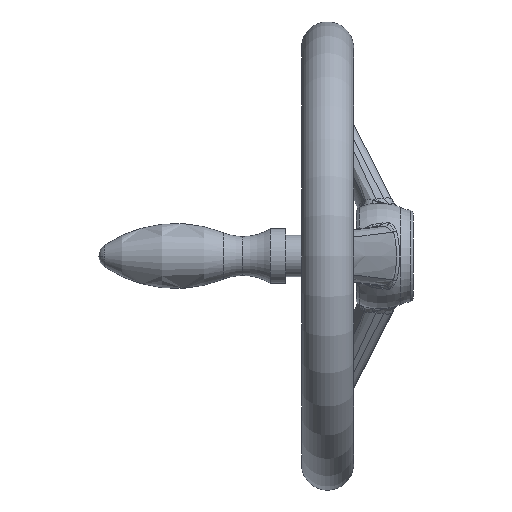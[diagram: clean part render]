
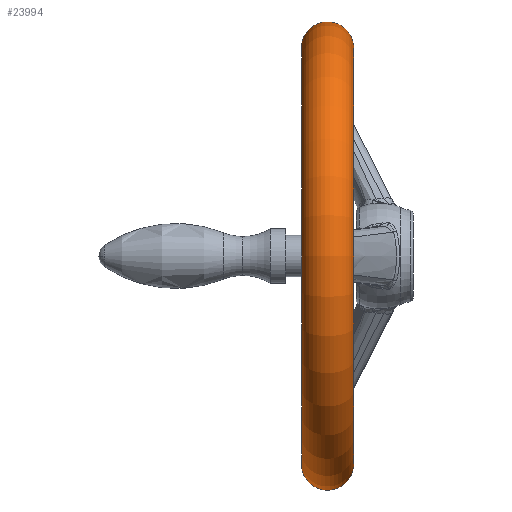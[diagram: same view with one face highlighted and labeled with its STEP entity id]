
A CAD part, left-side view. The second image highlights one B-rep face of the part: STEP entity #23994.
In plain terms, the highlighted toroidal (fillet/blend) face has major radius 79.944 mm and minor radius 10.056 mm.
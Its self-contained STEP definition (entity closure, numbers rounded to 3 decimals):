
#5012 = VERTEX_POINT ( 'NONE', #5389 ) ;
#5389 = CARTESIAN_POINT ( 'NONE',  ( 0., 23., -81. ) ) ;
#5676 = CARTESIAN_POINT ( 'NONE',  ( 0., 43., 81. ) ) ;
#5685 = CARTESIAN_POINT ( 'NONE',  ( 0., 43., -81. ) ) ;
#5911 = VERTEX_POINT ( 'NONE', #5685 ) ;
#5954 = CIRCLE ( 'NONE', #5967, 81. ) ;
#5957 = AXIS2_PLACEMENT_3D ( 'NONE', #5978, #6147, #6146 ) ;
#5967 = AXIS2_PLACEMENT_3D ( 'NONE', #5981, #5980, #5979 ) ;
#5978 = CARTESIAN_POINT ( 'NONE',  ( 0., 23., 0. ) ) ;
#5979 = DIRECTION ( 'NONE',  ( 0., 0., -1. ) ) ;
#5980 = DIRECTION ( 'NONE',  ( 0., -1., 0. ) ) ;
#5981 = CARTESIAN_POINT ( 'NONE',  ( 0., 43., 0. ) ) ;
#5983 = VERTEX_POINT ( 'NONE', #5676 ) ;
#6077 = CIRCLE ( 'NONE', #5957, 81. ) ;
#6146 = DIRECTION ( 'NONE',  ( 0., 0., -1. ) ) ;
#6147 = DIRECTION ( 'NONE',  ( 0., -1., 0. ) ) ;
#6217 = CARTESIAN_POINT ( 'NONE',  ( 0., 33., -79.944 ) ) ;
#6218 = AXIS2_PLACEMENT_3D ( 'NONE', #6217, #6404, #6403 ) ;
#6246 = CARTESIAN_POINT ( 'NONE',  ( 0., 33., 79.944 ) ) ;
#6259 = CIRCLE ( 'NONE', #6218, 10.056 ) ;
#6401 = CIRCLE ( 'NONE', #6475, 10.056 ) ;
#6403 = DIRECTION ( 'NONE',  ( 0., 0., 1. ) ) ;
#6404 = DIRECTION ( 'NONE',  ( -1., 0., 0. ) ) ;
#6466 = CARTESIAN_POINT ( 'NONE',  ( 0., 23., 81. ) ) ;
#6473 = DIRECTION ( 'NONE',  ( 0., 0., -1. ) ) ;
#6474 = DIRECTION ( 'NONE',  ( 1., 0., 0. ) ) ;
#6475 = AXIS2_PLACEMENT_3D ( 'NONE', #6246, #6474, #6473 ) ;
#6746 = EDGE_CURVE ( 'NONE', #5983, #5911, #5954, .T. ) ;
#7536 = EDGE_CURVE ( 'NONE', #10745, #5012, #6077, .T. ) ;
#9702 = EDGE_CURVE ( 'NONE', #5911, #5012, #6259, .T. ) ;
#10030 = EDGE_CURVE ( 'NONE', #5983, #10745, #6401, .T. ) ;
#10745 = VERTEX_POINT ( 'NONE', #6466 ) ;
#12202 = AXIS2_PLACEMENT_3D ( 'NONE', #12216, #12215, #12214 ) ;
#12214 = DIRECTION ( 'NONE',  ( 0., 0., -1. ) ) ;
#12215 = DIRECTION ( 'NONE',  ( 0., -1., 0. ) ) ;
#12216 = CARTESIAN_POINT ( 'NONE',  ( 0., 33., 0. ) ) ;
#12225 = FACE_OUTER_BOUND ( 'NONE', #23979, .T. ) ;
#12234 = TOROIDAL_SURFACE ( 'NONE', #12202, 79.944, 10.056 ) ;
#23949 = ORIENTED_EDGE ( 'NONE', *, *, #6746, .T. ) ;
#23977 = ORIENTED_EDGE ( 'NONE', *, *, #7536, .F. ) ;
#23979 = EDGE_LOOP ( 'NONE', ( #23995, #23949, #23990, #23977 ) ) ;
#23990 = ORIENTED_EDGE ( 'NONE', *, *, #9702, .T. ) ;
#23994 = ADVANCED_FACE ( 'NONE', ( #12225 ), #12234, .T. ) ;
#23995 = ORIENTED_EDGE ( 'NONE', *, *, #10030, .F. ) ;
